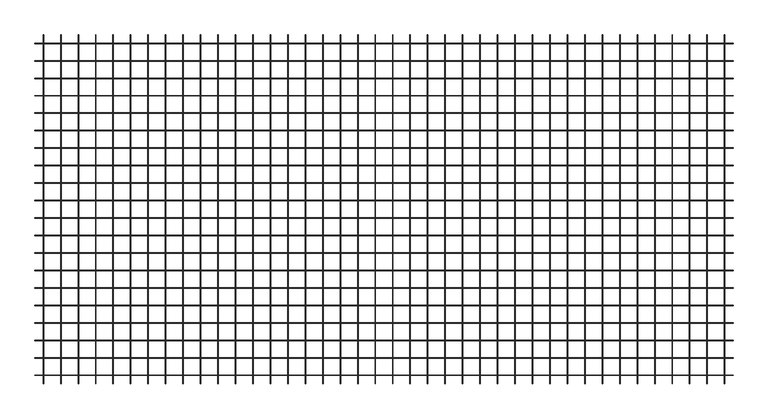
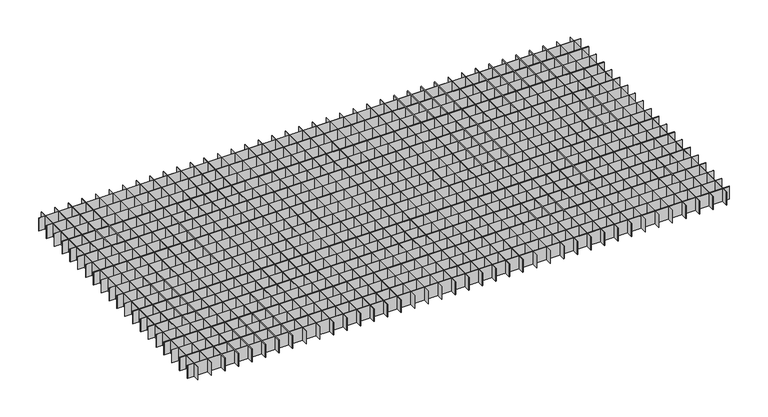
"""IFC4 building model written with IfcOpenShell, lengths in millimetres: proxy geometry, durlum_QUADRA_panel : durlum_QUADRA."""

from ifc_helpers import new_model, si_unit, origin, origin_with_axes, place, context, project, spatial, polyline, outline, extrude, source, transform, mapped, element, save


def generic_models_4fd2051e(model_context):
    return source(origin(), model_context, "Body", "SweptSolid", [
        extrude(outline(polyline([(554.6, 299.5), (555.4, 299.5), (555.4, -299.5), (554.6, -299.5), (554.6, 299.5)])), origin_with_axes(), (0.0, 0.0, 1.0), 30.0),
        extrude(outline(polyline([(524.6, 299.5), (525.4, 299.5), (525.4, -299.5), (524.6, -299.5), (524.6, 299.5)])), origin_with_axes(), (0.0, 0.0, 1.0), 30.0),
        extrude(outline(polyline([(494.6, 299.5), (495.4, 299.5), (495.4, -299.5), (494.6, -299.5), (494.6, 299.5)])), origin_with_axes(), (0.0, 0.0, 1.0), 30.0),
        extrude(outline(polyline([(464.6, 299.5), (465.4, 299.5), (465.4, -299.5), (464.6, -299.5), (464.6, 299.5)])), origin_with_axes(), (0.0, 0.0, 1.0), 30.0),
        extrude(outline(polyline([(434.6, 299.5), (435.4, 299.5), (435.4, -299.5), (434.6, -299.5), (434.6, 299.5)])), origin_with_axes(), (0.0, 0.0, 1.0), 30.0),
        extrude(outline(polyline([(404.6, 299.5), (405.4, 299.5), (405.4, -299.5), (404.6, -299.5), (404.6, 299.5)])), origin_with_axes(), (0.0, 0.0, 1.0), 30.0),
        extrude(outline(polyline([(374.6, 299.5), (375.4, 299.5), (375.4, -299.5), (374.6, -299.5), (374.6, 299.5)])), origin_with_axes(), (0.0, 0.0, 1.0), 30.0),
        extrude(outline(polyline([(344.6, 299.5), (345.4, 299.5), (345.4, -299.5), (344.6, -299.5), (344.6, 299.5)])), origin_with_axes(), (0.0, 0.0, 1.0), 30.0),
        extrude(outline(polyline([(314.6, 299.5), (315.4, 299.5), (315.4, -299.5), (314.6, -299.5), (314.6, 299.5)])), origin_with_axes(), (0.0, 0.0, 1.0), 30.0),
        extrude(outline(polyline([(284.6, 299.5), (285.4, 299.5), (285.4, -299.5), (284.6, -299.5), (284.6, 299.5)])), origin_with_axes(), (0.0, 0.0, 1.0), 30.0),
        extrude(outline(polyline([(254.6, 299.5), (255.4, 299.5), (255.4, -299.5), (254.6, -299.5), (254.6, 299.5)])), origin_with_axes(), (0.0, 0.0, 1.0), 30.0),
        extrude(outline(polyline([(224.6, 299.5), (225.4, 299.5), (225.4, -299.5), (224.6, -299.5), (224.6, 299.5)])), origin_with_axes(), (0.0, 0.0, 1.0), 30.0),
        extrude(outline(polyline([(194.6, 299.5), (195.4, 299.5), (195.4, -299.5), (194.6, -299.5), (194.6, 299.5)])), origin_with_axes(), (0.0, 0.0, 1.0), 30.0),
        extrude(outline(polyline([(164.6, 299.5), (165.4, 299.5), (165.4, -299.5), (164.6, -299.5), (164.6, 299.5)])), origin_with_axes(), (0.0, 0.0, 1.0), 30.0),
        extrude(outline(polyline([(134.6, 299.5), (135.4, 299.5), (135.4, -299.5), (134.6, -299.5), (134.6, 299.5)])), origin_with_axes(), (0.0, 0.0, 1.0), 30.0),
        extrude(outline(polyline([(104.6, 299.5), (105.4, 299.5), (105.4, -299.5), (104.6, -299.5), (104.6, 299.5)])), origin_with_axes(), (0.0, 0.0, 1.0), 30.0),
        extrude(outline(polyline([(74.6, 299.5), (75.4, 299.5), (75.4, -299.5), (74.6, -299.5), (74.6, 299.5)])), origin_with_axes(), (0.0, 0.0, 1.0), 30.0),
        extrude(outline(polyline([(44.6, 299.5), (45.4, 299.5), (45.4, -299.5), (44.6, -299.5), (44.6, 299.5)])), origin_with_axes(), (0.0, 0.0, 1.0), 30.0),
        extrude(outline(polyline([(14.6, 299.5), (15.4, 299.5), (15.4, -299.5), (14.6, -299.5), (14.6, 299.5)])), origin_with_axes(), (0.0, 0.0, 1.0), 30.0),
        extrude(outline(polyline([(-15.4, 299.5), (-14.6, 299.5), (-14.6, -299.5), (-15.4, -299.5), (-15.4, 299.5)])), origin_with_axes(), (0.0, 0.0, 1.0), 30.0),
        extrude(outline(polyline([(-45.4, 299.5), (-44.6, 299.5), (-44.6, -299.5), (-45.4, -299.5), (-45.4, 299.5)])), origin_with_axes(), (0.0, 0.0, 1.0), 30.0),
        extrude(outline(polyline([(-75.4, 299.5), (-74.6, 299.5), (-74.6, -299.5), (-75.4, -299.5), (-75.4, 299.5)])), origin_with_axes(), (0.0, 0.0, 1.0), 30.0),
        extrude(outline(polyline([(-105.4, 299.5), (-104.6, 299.5), (-104.6, -299.5), (-105.4, -299.5), (-105.4, 299.5)])), origin_with_axes(), (0.0, 0.0, 1.0), 30.0),
        extrude(outline(polyline([(-135.4, 299.5), (-134.6, 299.5), (-134.6, -299.5), (-135.4, -299.5), (-135.4, 299.5)])), origin_with_axes(), (0.0, 0.0, 1.0), 30.0),
        extrude(outline(polyline([(-165.4, 299.5), (-164.6, 299.5), (-164.6, -299.5), (-165.4, -299.5), (-165.4, 299.5)])), origin_with_axes(), (0.0, 0.0, 1.0), 30.0),
        extrude(outline(polyline([(599.5, -254.6), (599.5, -255.4), (-599.5, -255.4), (-599.5, -254.6), (599.5, -254.6)])), origin_with_axes(), (0.0, 0.0, 1.0), 30.0),
        extrude(outline(polyline([(599.5, -224.6), (599.5, -225.4), (-599.5, -225.4), (-599.5, -224.6), (599.5, -224.6)])), origin_with_axes(), (0.0, 0.0, 1.0), 30.0),
        extrude(outline(polyline([(599.5, -194.6), (599.5, -195.4), (-599.5, -195.4), (-599.5, -194.6), (599.5, -194.6)])), origin_with_axes(), (0.0, 0.0, 1.0), 30.0),
        extrude(outline(polyline([(599.5, -164.6), (599.5, -165.4), (-599.5, -165.4), (-599.5, -164.6), (599.5, -164.6)])), origin_with_axes(), (0.0, 0.0, 1.0), 30.0),
        extrude(outline(polyline([(599.5, -134.6), (599.5, -135.4), (-599.5, -135.4), (-599.5, -134.6), (599.5, -134.6)])), origin_with_axes(), (0.0, 0.0, 1.0), 30.0),
        extrude(outline(polyline([(599.5, -104.6), (599.5, -105.4), (-599.5, -105.4), (-599.5, -104.6), (599.5, -104.6)])), origin_with_axes(), (0.0, 0.0, 1.0), 30.0),
        extrude(outline(polyline([(599.5, -74.6), (599.5, -75.4), (-599.5, -75.4), (-599.5, -74.6), (599.5, -74.6)])), origin_with_axes(), (0.0, 0.0, 1.0), 30.0),
        extrude(outline(polyline([(599.5, -44.6), (599.5, -45.4), (-599.5, -45.4), (-599.5, -44.6), (599.5, -44.6)])), origin_with_axes(), (0.0, 0.0, 1.0), 30.0),
        extrude(outline(polyline([(599.5, -14.6), (599.5, -15.4), (-599.5, -15.4), (-599.5, -14.6), (599.5, -14.6)])), origin_with_axes(), (0.0, 0.0, 1.0), 30.0),
        extrude(outline(polyline([(599.5, 15.4), (599.5, 14.6), (-599.5, 14.6), (-599.5, 15.4), (599.5, 15.4)])), origin_with_axes(), (0.0, 0.0, 1.0), 30.0),
        extrude(outline(polyline([(599.5, 45.4), (599.5, 44.6), (-599.5, 44.6), (-599.5, 45.4), (599.5, 45.4)])), origin_with_axes(), (0.0, 0.0, 1.0), 30.0),
        extrude(outline(polyline([(599.5, 75.4), (599.5, 74.6), (-599.5, 74.6), (-599.5, 75.4), (599.5, 75.4)])), origin_with_axes(), (0.0, 0.0, 1.0), 30.0),
        extrude(outline(polyline([(-195.4, 299.5), (-194.6, 299.5), (-194.6, -299.5), (-195.4, -299.5), (-195.4, 299.5)])), origin_with_axes(), (0.0, 0.0, 1.0), 30.0),
        extrude(outline(polyline([(-225.4, 299.5), (-224.6, 299.5), (-224.6, -299.5), (-225.4, -299.5), (-225.4, 299.5)])), origin_with_axes(), (0.0, 0.0, 1.0), 30.0),
        extrude(outline(polyline([(-255.4, 299.5), (-254.6, 299.5), (-254.6, -299.5), (-255.4, -299.5), (-255.4, 299.5)])), origin_with_axes(), (0.0, 0.0, 1.0), 30.0),
        extrude(outline(polyline([(-285.4, 299.5), (-284.6, 299.5), (-284.6, -299.5), (-285.4, -299.5), (-285.4, 299.5)])), origin_with_axes(), (0.0, 0.0, 1.0), 30.0),
        extrude(outline(polyline([(-315.4, 299.5), (-314.6, 299.5), (-314.6, -299.5), (-315.4, -299.5), (-315.4, 299.5)])), origin_with_axes(), (0.0, 0.0, 1.0), 30.0),
        extrude(outline(polyline([(-345.4, 299.5), (-344.6, 299.5), (-344.6, -299.5), (-345.4, -299.5), (-345.4, 299.5)])), origin_with_axes(), (0.0, 0.0, 1.0), 30.0),
        extrude(outline(polyline([(-375.4, 299.5), (-374.6, 299.5), (-374.6, -299.5), (-375.4, -299.5), (-375.4, 299.5)])), origin_with_axes(), (0.0, 0.0, 1.0), 30.0),
        extrude(outline(polyline([(-405.4, 299.5), (-404.6, 299.5), (-404.6, -299.5), (-405.4, -299.5), (-405.4, 299.5)])), origin_with_axes(), (0.0, 0.0, 1.0), 30.0),
        extrude(outline(polyline([(-435.4, 299.5), (-434.6, 299.5), (-434.6, -299.5), (-435.4, -299.5), (-435.4, 299.5)])), origin_with_axes(), (0.0, 0.0, 1.0), 30.0),
        extrude(outline(polyline([(-465.4, 299.5), (-464.6, 299.5), (-464.6, -299.5), (-465.4, -299.5), (-465.4, 299.5)])), origin_with_axes(), (0.0, 0.0, 1.0), 30.0),
        extrude(outline(polyline([(-495.4, 299.5), (-494.6, 299.5), (-494.6, -299.5), (-495.4, -299.5), (-495.4, 299.5)])), origin_with_axes(), (0.0, 0.0, 1.0), 30.0),
        extrude(outline(polyline([(-525.4, 299.5), (-524.6, 299.5), (-524.6, -299.5), (-525.4, -299.5), (-525.4, 299.5)])), origin_with_axes(), (0.0, 0.0, 1.0), 30.0),
        extrude(outline(polyline([(-555.4, 299.5), (-554.6, 299.5), (-554.6, -299.5), (-555.4, -299.5), (-555.4, 299.5)])), origin_with_axes(), (0.0, 0.0, 1.0), 30.0),
        extrude(outline(polyline([(599.5, 105.4), (599.5, 104.6), (-599.5, 104.6), (-599.5, 105.4), (599.5, 105.4)])), origin_with_axes(), (0.0, 0.0, 1.0), 30.0),
        extrude(outline(polyline([(599.5, 135.4), (599.5, 134.6), (-599.5, 134.6), (-599.5, 135.4), (599.5, 135.4)])), origin_with_axes(), (0.0, 0.0, 1.0), 30.0),
        extrude(outline(polyline([(599.5, 165.4), (599.5, 164.6), (-599.5, 164.6), (-599.5, 165.4), (599.5, 165.4)])), origin_with_axes(), (0.0, 0.0, 1.0), 30.0),
        extrude(outline(polyline([(599.5, 195.4), (599.5, 194.6), (-599.5, 194.6), (-599.5, 195.4), (599.5, 195.4)])), origin_with_axes(), (0.0, 0.0, 1.0), 30.0),
        extrude(outline(polyline([(599.5, 225.4), (599.5, 224.6), (-599.5, 224.6), (-599.5, 225.4), (599.5, 225.4)])), origin_with_axes(), (0.0, 0.0, 1.0), 30.0),
        extrude(outline(polyline([(599.5, 255.4), (599.5, 254.6), (-599.5, 254.6), (-599.5, 255.4), (599.5, 255.4)])), origin_with_axes(), (0.0, 0.0, 1.0), 30.0),
        extrude(outline(polyline([(584.6, 299.5), (585.4, 299.5), (585.4, -299.5), (584.6, -299.5), (584.6, 299.5)])), origin_with_axes(), (0.0, 0.0, 1.0), 30.0),
        extrude(outline(polyline([(-585.4, 299.5), (-584.6, 299.5), (-584.6, -299.5), (-585.4, -299.5), (-585.4, 299.5)])), origin_with_axes(), (0.0, 0.0, 1.0), 30.0),
        extrude(outline(polyline([(599.5, -284.6), (599.5, -285.4), (-599.5, -285.4), (-599.5, -284.6), (599.5, -284.6)])), origin_with_axes(), (0.0, 0.0, 1.0), 30.0),
        extrude(outline(polyline([(599.5, 285.4), (599.5, 284.6), (-599.5, 284.6), (-599.5, 285.4), (599.5, 285.4)])), origin_with_axes(), (0.0, 0.0, 1.0), 30.0),
    ])


if __name__ == "__main__":
    model = new_model("IFC4")
    model_context = context("Model", 3, world=origin())
    ifc_project = project(units=[si_unit("LENGTHUNIT", "METRE", prefix="MILLI")], contexts=[model_context])
    site = spatial("IfcSite", under=ifc_project)
    building = spatial("IfcBuilding", under=site)
    placement = place(None, origin())
    generic_models_shape = generic_models_4fd2051e(model_context)
    element("IfcBuildingElementProxy", 1, Name="durlum_QUADRA_panel : durlum_QUADRA", ObjectType="durlum_QUADRA_panel : durlum_QUADRA", at=placement, inside=building, context=model_context, shape_type="MappedRepresentation", body=[
        mapped(generic_models_shape, transform((0.0, 0.0, 0.0), x_axis=(1.0, 0.0, 0.0), y_axis=(0.0, 1.0, 0.0), z_axis=(0.0, 0.0, 1.0))),
    ])
    save(model, "model.ifc")
